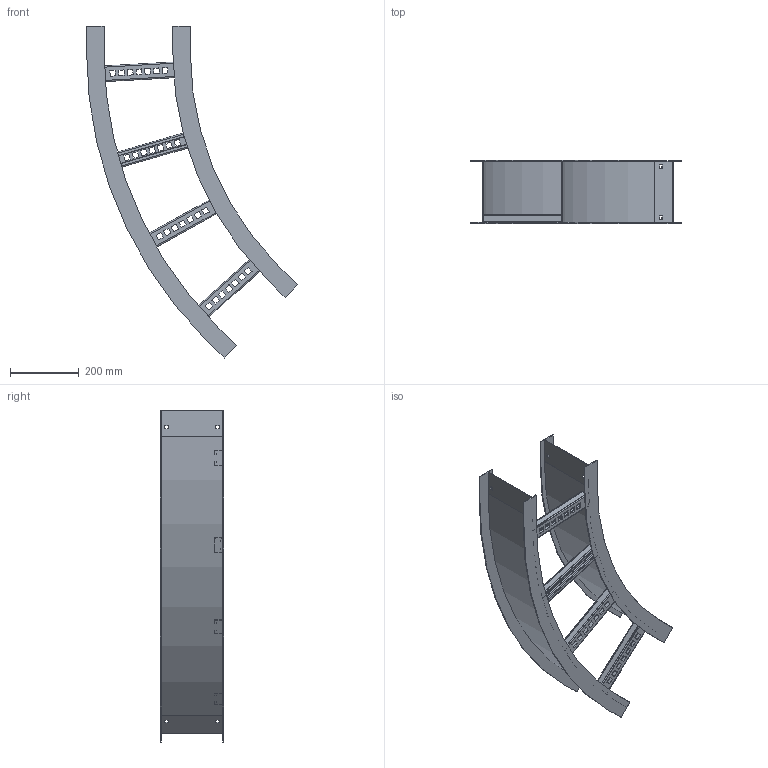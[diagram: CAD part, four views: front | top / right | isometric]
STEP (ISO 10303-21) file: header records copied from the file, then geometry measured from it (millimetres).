
FILE_DESCRIPTION((''),'2;1');
FILE_NAME('AHF709LHB4536_ASM','2010-01-27T',('erouzier'),(''),'PRO/ENGINEER BY PARAMETRIC TECHNOLOGY CORPORATION, 2008510','PRO/ENGINEER BY PARAMETRIC TECHNOLOGY CORPORATION, 2008510','');
FILE_SCHEMA(('CONFIG_CONTROL_DESIGN'));
Length unit declared in the file: inch
Products named in the file (4): CDS001813-7-45-36-I; CDS001813-7-45-45-O; CDS002159L9-P; AHF709LHB4536_ASM
Assembly tree (6 placements, depth 2):
  AHF709LHB4536_ASM
    CDS001813-7-45-36-I
    CDS001813-7-45-45-O
    CDS002159L9-P  x4
Bounding box: 613.13 x 183.9 x 965.6 mm (x, y, z)
Volume: 1534183.2 mm3; surface area: 1295459 mm2
Topology: 6 solids, 6 shells, 428 faces, 1248 edges, 832 vertices
Faces by surface type: plane 260, cylinder 168
Entity records: 5778 total; most frequent: CARTESIAN_POINT 1000, ORIENTED_EDGE 984, DIRECTION 954, EDGE_CURVE 492, VECTOR 390, LINE 390, VERTEX_POINT 328, AXIS2_PLACEMENT_3D 282
